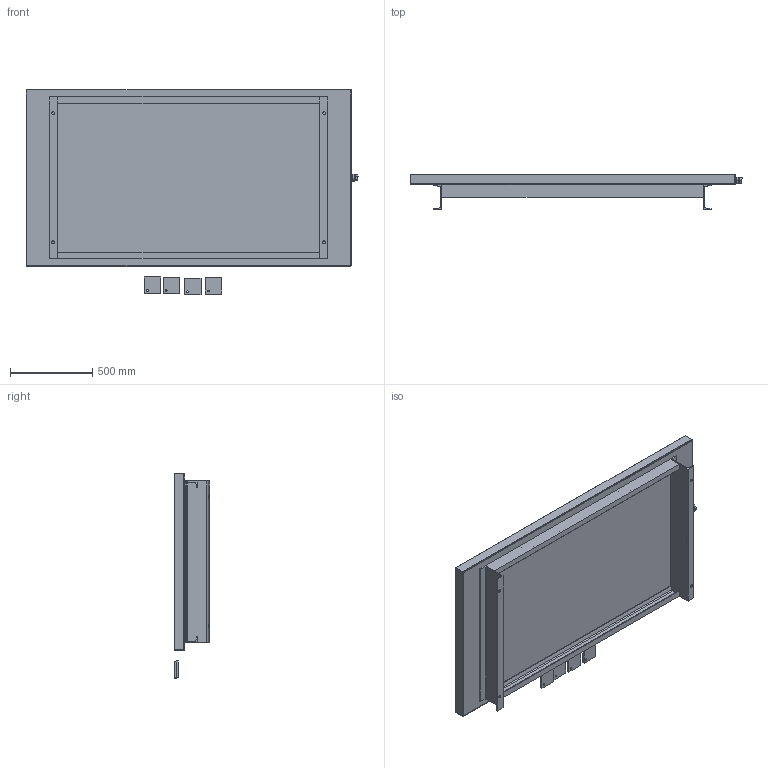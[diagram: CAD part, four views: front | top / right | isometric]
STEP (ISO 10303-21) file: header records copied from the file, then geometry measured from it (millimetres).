
FILE_DESCRIPTION (( 'STEP AP214' ), '1' );
FILE_NAME ('TDP-200.STEP', '2026-04-22T11:35:26', ( '' ), ( '' ), 'SwSTEP 2.0', 'SolidWorks 2026', '' );
FILE_SCHEMA (( 'AUTOMOTIVE_DESIGN' ));
Length unit declared in the file: inch
Products named in the file (7): TDP-200; C3-TDP-200_Default<As Welded>; #12 SAE PLUG; C6-TDP-200_Default<As Welded>; TDP-PAD; #12 SAE DRAIN
Assembly tree (11 placements, depth 2):
  TDP-200
    TDP-200
    C6-TDP-200_Default<As Welded>  x2
    C3-TDP-200_Default<As Welded>  x2
    #12 SAE DRAIN
    #12 SAE PLUG
    TDP-PAD  x4
Bounding box: 2022.47 x 216.99 x 1252.86 mm (x, y, z)
Volume: 15387732.1 mm3; surface area: 6942766.5 mm2
Topology: 11 solids, 11 shells, 163 faces, 378 edges, 240 vertices
Faces by surface type: plane 99, cylinder 50, bspline 8, cone 6
Entity records: 3752 total; most frequent: CARTESIAN_POINT 1105, DIRECTION 498, ORIENTED_EDGE 480, EDGE_CURVE 240, VECTOR 168, LINE 168, AXIS2_PLACEMENT_3D 165, VERTEX_POINT 148
